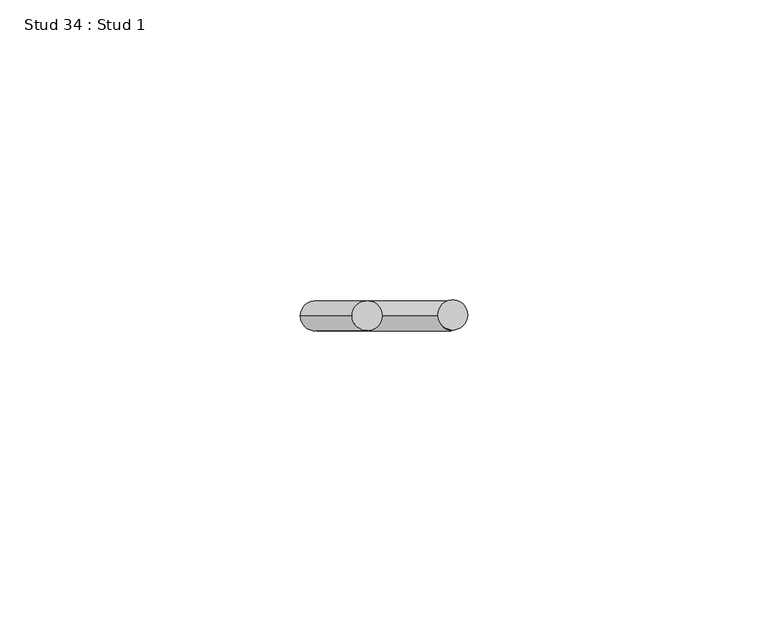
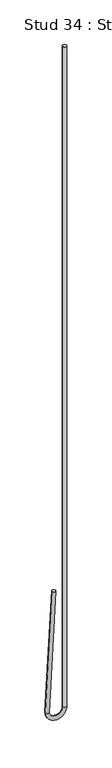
"""IFC4 building model written with IfcOpenShell, lengths in millimetres: proxy geometry, Stud 34 : Stud 1."""

from ifc_helpers import new_model, si_unit, point, frame, origin, place, context, project, spatial, circle_curve, ellipse_curve, trimmed, source, transform, mapped, element, save
from ifc_brep_helpers import plane_surface, cylinder_surface, revolved_surface, advanced_brep


def stud_34_stud_1_58c9755f(model_context):
    return source(origin(), model_context, "Body", "AdvancedBrep", [
        advanced_brep(
        [(-14671.4532788, 4624.5191481, 3640.800192), (-14666.4601311, 4624.5191481, 3640.5385122), (-14680.0939451, 4624.5191481, 3475.9264558), (-14675.1007975, 4624.5191481, 3475.664776), (-14657.1920812, 4624.5191481, 3475.7956159), (-14652.1920812, 4624.5191481, 3475.7956159), (-14652.1920812, 4624.5191481, 4390.1956159), (-14657.1920812, 4624.5191481, 4390.1956159)],
        [
            (0, 1, circle_curve(frame((-14668.9567049, 4624.5191481, 3640.6693521), z_axis=(0.05233595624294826, 0.0, 0.9986295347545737), x_axis=(0.9986295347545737, 0.0, -0.05233595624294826)), 2.5)),
            (1, 0, circle_curve(frame((-14668.9567049, 4624.5191481, 3640.6693521), z_axis=(0.05233595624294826, 0.0, 0.9986295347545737), x_axis=(0.9986295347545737, 0.0, -0.05233595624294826)), 2.5)),
            (0, 2),
            (2, 3, circle_curve(frame((-14677.5973713, 4624.5191481, 3475.7956159), z_axis=(0.05233595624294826, 0.0, 0.9986295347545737), x_axis=(0.9986295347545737, 0.0, -0.05233595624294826)), 2.5)),
            (3, 1),
            (3, 2, circle_curve(frame((-14677.5973713, 4624.5191481, 3475.7956159), z_axis=(0.05233595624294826, 0.0, 0.9986295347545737), x_axis=(0.9986295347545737, 0.0, -0.05233595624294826)), 2.5)),
            (4, 3, circle_curve(frame((-14666.1447263, 4624.5191481, 3475.7956159), z_axis=(0.0, 1.0, 0.0), x_axis=(-1.0, 0.0, 0.0)), 8.952645)),
            (2, 5, circle_curve(frame((-14666.1447263, 4624.5191481, 3475.7956159), z_axis=(0.0, -1.0, 0.0), x_axis=(-1.0, 0.0, 0.0)), 13.952645)),
            (5, 4, circle_curve(frame((-14654.6920812, 4624.5191481, 3475.7956159), z_axis=(0.0, 0.0, -1.0), x_axis=(-1.0, 0.0, 0.0)), 2.5)),
            (4, 5, circle_curve(frame((-14654.6920812, 4624.5191481, 3475.7956159), z_axis=(0.0, 0.0, -1.0), x_axis=(-1.0, 0.0, 0.0)), 2.5)),
            (6, 7, circle_curve(frame((-14654.6920812, 4624.5191481, 4390.1956159), z_axis=(0.0, 0.0, 1.0), x_axis=(-1.0, 0.0, 0.0)), 2.5)),
            (7, 6, circle_curve(frame((-14654.6920812, 4624.5191481, 4390.1956159), z_axis=(0.0, 0.0, 1.0), x_axis=(-1.0, 0.0, 0.0)), 2.5)),
            (5, 6),
            (7, 4),
        ],
        [
            plane_surface(frame((-14668.9567049, 5218.2441481, 3640.6693521), z_axis=(0.05233595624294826, 0.0, 0.9986295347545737), x_axis=(0.0, -1.0, 0.0))),
            cylinder_surface(frame((-14668.9567049, 4624.5191481, 3640.6693521), z_axis=(0.05233595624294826, 0.0, 0.9986295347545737), x_axis=(0.9986295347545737, 0.0, -0.05233595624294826)), 2.5),
            revolved_surface(trimmed(ellipse_curve(frame((-14677.5973713, 4624.5191481, 3475.7956159), z_axis=(0.0, 0.0, 1.0), x_axis=(1.0, 0.0, 0.0)), 2.5, 2.5), [point((-14680.0973713, 4624.5191481, 3475.7956159))], [point((-14675.0973713, 4624.5191481, 3475.7956159))], True, "CARTESIAN"), (-14666.1447263, 5218.2441481, 3475.7956159), (0.0, -1.0, 0.0)),
            revolved_surface(trimmed(ellipse_curve(frame((-14677.5973713, 4624.5191481, 3475.7956159), z_axis=(0.0, 0.0, 1.0), x_axis=(1.0, 0.0, 0.0)), 2.5, 2.5), [point((-14675.0973713, 4624.5191481, 3475.7956159))], [point((-14680.0973713, 4624.5191481, 3475.7956159))], True, "CARTESIAN"), (-14666.1447263, 5218.2441481, 3475.7956159), (0.0, -1.0, 0.0)),
            plane_surface(frame((-14654.6920812, 5218.2441481, 4390.1956159), z_axis=(0.0, 0.0, 1.0), x_axis=(0.0, -1.0, 0.0))),
            cylinder_surface(frame((-14654.6920812, 4624.5191481, 3475.7956159), z_axis=(0.0, 0.0, -1.0), x_axis=(-1.0, 0.0, 0.0)), 2.5),
        ],
        [
            (0, [[1, 2]]),
            (1, [[-1, 3, 4, 5]]),
            (1, [[-2, -5, 6, -3]]),
            (2, [[7, -4, 8, 9]]),
            (3, [[-8, -6, -7, 10]]),
            (4, [[11, 12]]),
            (5, [[-9, 13, -12, 14]]),
            (5, [[-10, -14, -11, -13]]),
        ],
    ),
    ])


if __name__ == "__main__":
    model = new_model("IFC4")
    model_context = context("Model", 3, world=origin())
    ifc_project = project(units=[si_unit("LENGTHUNIT", "METRE", prefix="MILLI")], contexts=[model_context])
    site = spatial("IfcSite", under=ifc_project)
    building = spatial("IfcBuilding", under=site)
    placement = place(None, origin())
    stud_34_stud_1_shape = stud_34_stud_1_58c9755f(model_context)
    element("IfcBuildingElementProxy", 1, Name="Stud 34 : Stud 1", ObjectType="Stud 34 : Stud 1", at=placement, inside=building, context=model_context, shape_type="MappedRepresentation", body=[
        mapped(stud_34_stud_1_shape, transform((0.0, 0.0, 0.0), x_axis=(1.0, 0.0, 0.0), y_axis=(0.0, 1.0, 0.0), z_axis=(0.0, 0.0, 1.0))),
    ])
    save(model, "model.ifc")
